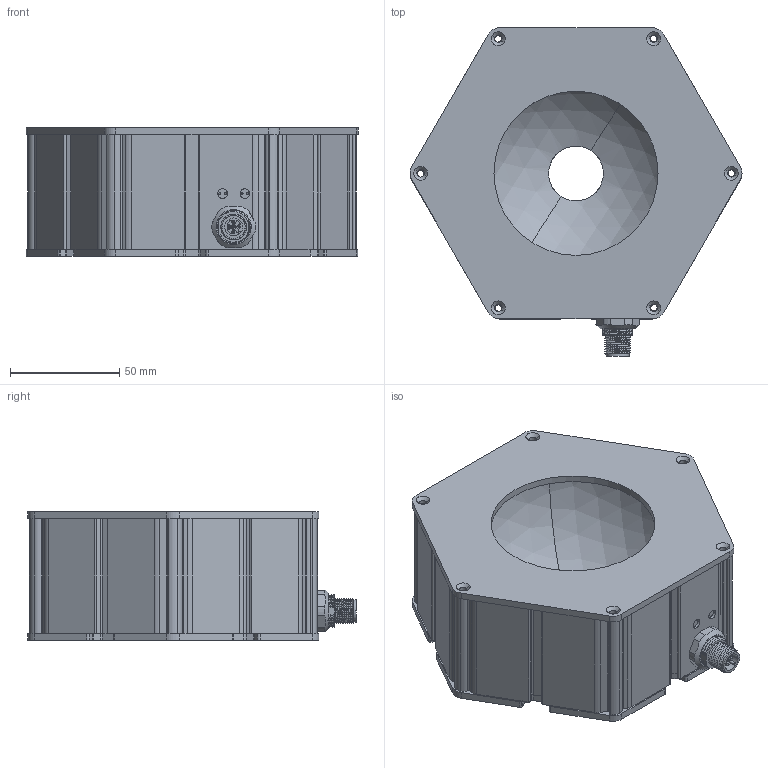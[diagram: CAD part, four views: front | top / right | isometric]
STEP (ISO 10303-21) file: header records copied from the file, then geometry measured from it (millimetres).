
FILE_DESCRIPTION (( 'STEP AP214' ), '1' );
FILE_NAME ('DDL-100_R2.STEP', '2015-09-11T17:02:04', ( '' ), ( '' ), 'SwSTEP 2.0', 'SolidWorks 2015', '' );
FILE_SCHEMA (( 'AUTOMOTIVE_DESIGN' ));
Length unit declared in the file: inch
Products named in the file (13): S4B-XH-SM4-TB_4 pin; PCB-00544-03; DDL-100-Plates_25mm hole; DDL-100-Plates_75mm hole; EXT-DDL-100 ASM; EXT-DDL-100_52.5mm; EXT-DDL-100_52.5mm Driver; DDL-Dome_4 in; DDL-100_R2; DDL-100-GSKT_4 in crushed; M12 Nut; ASM-00544-03; M12_Male
Assembly tree (16 placements, depth 3):
  DDL-100_R2
    DDL-Dome_4 in
    EXT-DDL-100 ASM
      EXT-DDL-100_52.5mm Driver
      EXT-DDL-100_52.5mm  x5
    DDL-100-Plates_75mm hole
    DDL-100-Plates_25mm hole
    ASM-00544-03
      PCB-00544-03
      S4B-XH-SM4-TB_4 pin
      M12_Male
    M12 Nut
    DDL-100-GSKT_4 in crushed
Bounding box: 151.73 x 150.01 x 58.85 mm (x, y, z)
Volume: 168370.8 mm3; surface area: 178678.5 mm2
Topology: 14 solids, 15 shells, 1318 faces, 3719 edges, 2452 vertices
Faces by surface type: cylinder 773, plane 395, bspline 70, cone 66, torus 10, sphere 4
Entity records: 60372 total; most frequent: CARTESIAN_POINT 27070, DIRECTION 6084, ORIENTED_EDGE 6074, EDGE_CURVE 3037, AXIS2_PLACEMENT_3D 2316, VERTEX_POINT 2004, EDGE_LOOP 1469, VECTOR 1452
